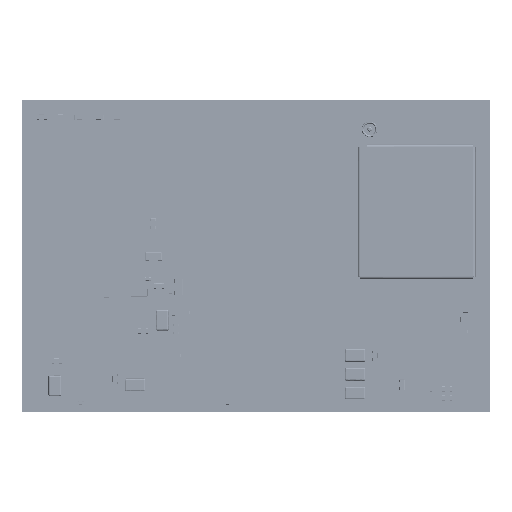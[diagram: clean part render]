
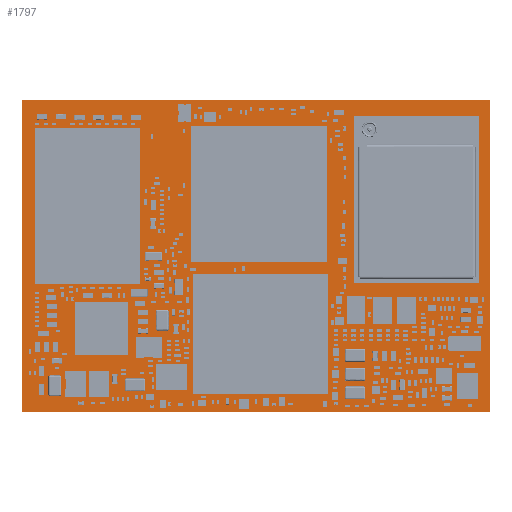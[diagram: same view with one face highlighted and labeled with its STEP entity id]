
A CAD part, top view. The second image highlights one B-rep face of the part: STEP entity #1797.
In plain terms, the highlighted planar face has unit normal (0, 0, 1).
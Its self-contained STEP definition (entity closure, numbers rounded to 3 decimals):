
#1668 = VERTEX_POINT('',#1669);
#1669 = CARTESIAN_POINT('',(0.,0.,1.263));
#1675 = EDGE_CURVE('',#1668,#1676,#1678,.T.);
#1676 = VERTEX_POINT('',#1677);
#1677 = CARTESIAN_POINT('',(0.,29.997,1.263));
#1678 = LINE('',#1679,#1680);
#1679 = CARTESIAN_POINT('',(0.,0.,1.263));
#1680 = VECTOR('',#1681,1.);
#1681 = DIRECTION('',(0.,1.,0.));
#1706 = EDGE_CURVE('',#1676,#1707,#1709,.T.);
#1707 = VERTEX_POINT('',#1708);
#1708 = CARTESIAN_POINT('',(45.,29.997,1.263));
#1709 = LINE('',#1710,#1711);
#1710 = CARTESIAN_POINT('',(0.,29.997,1.263));
#1711 = VECTOR('',#1712,1.);
#1712 = DIRECTION('',(1.,0.,0.));
#1737 = EDGE_CURVE('',#1707,#1738,#1740,.T.);
#1738 = VERTEX_POINT('',#1739);
#1739 = CARTESIAN_POINT('',(45.,0.,1.263));
#1740 = LINE('',#1741,#1742);
#1741 = CARTESIAN_POINT('',(45.,29.997,1.263));
#1742 = VECTOR('',#1743,1.);
#1743 = DIRECTION('',(0.,-1.,0.));
#1768 = EDGE_CURVE('',#1738,#1668,#1769,.T.);
#1769 = LINE('',#1770,#1771);
#1770 = CARTESIAN_POINT('',(45.,0.,1.263));
#1771 = VECTOR('',#1772,1.);
#1772 = DIRECTION('',(-1.,0.,0.));
#1797 = ADVANCED_FACE('',(#1798),#1804,.F.);
#1798 = FACE_BOUND('',#1799,.F.);
#1799 = EDGE_LOOP('',(#1800,#1801,#1802,#1803));
#1800 = ORIENTED_EDGE('',*,*,#1675,.T.);
#1801 = ORIENTED_EDGE('',*,*,#1706,.T.);
#1802 = ORIENTED_EDGE('',*,*,#1737,.T.);
#1803 = ORIENTED_EDGE('',*,*,#1768,.T.);
#1804 = PLANE('',#1805);
#1805 = AXIS2_PLACEMENT_3D('',#1806,#1807,#1808);
#1806 = CARTESIAN_POINT('',(22.5,14.999,1.263));
#1807 = DIRECTION('',(-0.,-0.,-1.));
#1808 = DIRECTION('',(-1.,0.,0.));
